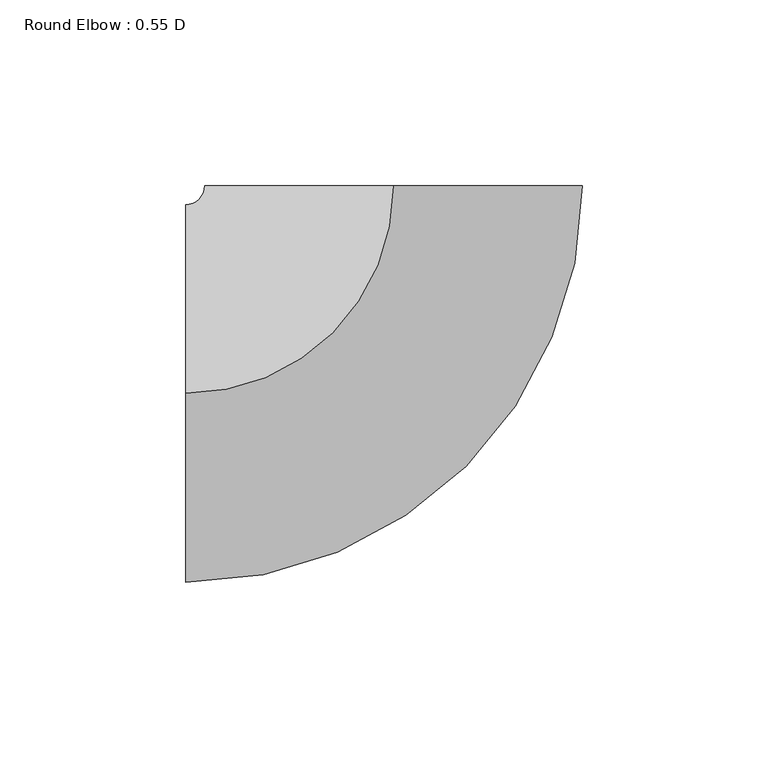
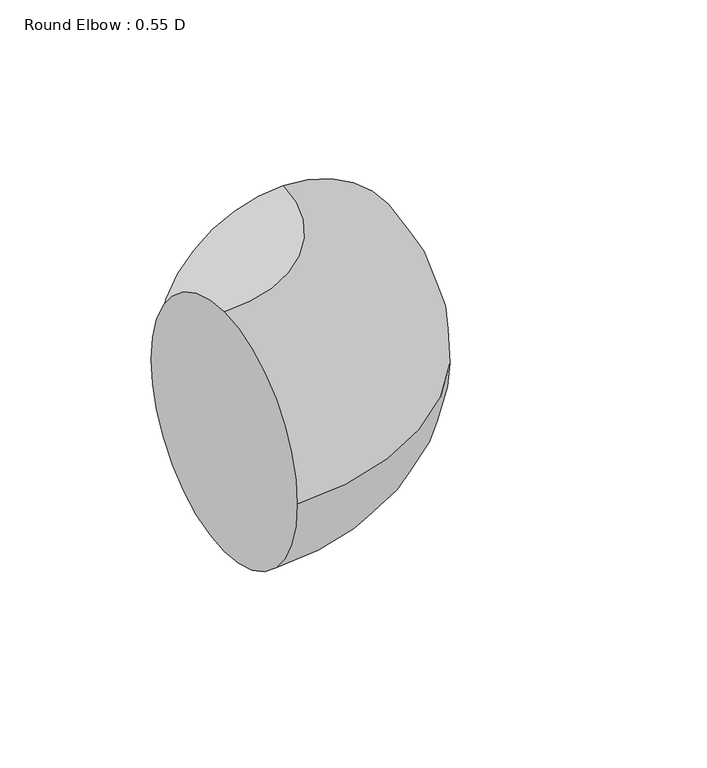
"""IFC4 building model written with IfcOpenShell, lengths in millimetres: duct fitting geometry, Round Elbow : 0.55 D."""

from ifc_helpers import new_model, si_unit, point, frame, origin, place, context, project, spatial, circle_curve, ellipse_curve, trimmed, source, transform, mapped, element, save
from ifc_brep_helpers import plane_surface, revolved_surface, advanced_brep


def round_elbow_0_55_d_35647d84(model_context):
    return source(origin(), model_context, "Body", "AdvancedBrep", [
        advanced_brep(
        [(-55.88, 0.0, 50.8), (-55.88, 50.8, 0.0), (-55.88, 0.0, -50.8), (-55.88, -50.8, 0.0), (0.0, 55.88, 50.8), (50.8, 55.88, 0.0), (0.0, 55.88, -50.8), (-50.8, 55.88, 0.0)],
        [
            (0, 1, circle_curve(frame((-55.88, 0.0, 0.0), z_axis=(-1.0, 0.0, 0.0), x_axis=(0.0, 1.0, 0.0)), 50.8)),
            (1, 2, circle_curve(frame((-55.88, 0.0, 0.0), z_axis=(-1.0, 0.0, 0.0), x_axis=(0.0, 1.0, 0.0)), 50.8)),
            (2, 3, circle_curve(frame((-55.88, 0.0, 0.0), z_axis=(-1.0, 0.0, 0.0), x_axis=(0.0, 1.0, 0.0)), 50.8)),
            (3, 0, circle_curve(frame((-55.88, 0.0, 0.0), z_axis=(-1.0, 0.0, 0.0), x_axis=(0.0, 1.0, 0.0)), 50.8)),
            (4, 5, circle_curve(frame((0.0, 55.88, 0.0), z_axis=(0.0, 1.0, 0.0), x_axis=(-1.0, 0.0, 0.0)), 50.8)),
            (5, 6, circle_curve(frame((0.0, 55.88, 0.0), z_axis=(0.0, 1.0, 0.0), x_axis=(-1.0, 0.0, 0.0)), 50.8)),
            (6, 7, circle_curve(frame((0.0, 55.88, 0.0), z_axis=(0.0, 1.0, 0.0), x_axis=(-1.0, 0.0, 0.0)), 50.8)),
            (7, 4, circle_curve(frame((0.0, 55.88, 0.0), z_axis=(0.0, 1.0, 0.0), x_axis=(-1.0, 0.0, 0.0)), 50.8)),
            (7, 1, circle_curve(frame((-55.88, 55.88, 0.0), z_axis=(0.0, 0.0, -1.0), x_axis=(0.0, -1.0, 0.0)), 5.08)),
            (0, 4, circle_curve(frame((-55.88, 55.88, 50.8), z_axis=(0.0, 0.0, 1.0), x_axis=(0.0, -1.0, 0.0)), 55.88)),
            (6, 2, circle_curve(frame((-55.88, 55.88, -50.8), z_axis=(0.0, 0.0, -1.0), x_axis=(0.0, -1.0, 0.0)), 55.88)),
            (5, 3, circle_curve(frame((-55.88, 55.88, 0.0), z_axis=(0.0, 0.0, -1.0), x_axis=(0.0, -1.0, 0.0)), 106.68)),
        ],
        [
            plane_surface(frame((-55.88, 0.0, 0.0), z_axis=(-1.0, 0.0, 0.0), x_axis=(0.0, 0.0, 1.0))),
            plane_surface(frame((0.0, 55.88, 0.0), z_axis=(0.0, 1.0, 0.0), x_axis=(0.0, 0.0, 1.0))),
            revolved_surface(trimmed(ellipse_curve(frame((-55.88, 0.0, 0.0), z_axis=(-1.0, 0.0, 0.0), x_axis=(0.0, 1.0, 0.0)), 50.8, 50.8), [point((-55.88, 0.0, 50.8))], [point((-55.88, 50.8, 0.0))], True, "CARTESIAN"), (-55.88, 55.88, 0.0), (0.0, 0.0, 1.0)),
            revolved_surface(trimmed(ellipse_curve(frame((-55.88, 0.0, 0.0), z_axis=(-1.0, 0.0, 0.0), x_axis=(0.0, 1.0, 0.0)), 50.8, 50.8), [point((-55.88, 50.8, 0.0))], [point((-55.88, 0.0, -50.8))], True, "CARTESIAN"), (-55.88, 55.88, 0.0), (0.0, 0.0, 1.0)),
            revolved_surface(trimmed(ellipse_curve(frame((-55.88, 0.0, 0.0), z_axis=(-1.0, 0.0, 0.0), x_axis=(0.0, 1.0, 0.0)), 50.8, 50.8), [point((-55.88, 0.0, -50.8))], [point((-55.88, -50.8, 0.0))], True, "CARTESIAN"), (-55.88, 55.88, 0.0), (0.0, 0.0, 1.0)),
            revolved_surface(trimmed(ellipse_curve(frame((-55.88, 0.0, 0.0), z_axis=(-1.0, 0.0, 0.0), x_axis=(0.0, 1.0, 0.0)), 50.8, 50.8), [point((-55.88, -50.8, 0.0))], [point((-55.88, 0.0, 50.8))], True, "CARTESIAN"), (-55.88, 55.88, 0.0), (0.0, 0.0, 1.0)),
        ],
        [
            (0, [[1, 2, 3, 4]]),
            (1, [[5, 6, 7, 8]]),
            (2, [[9, -1, 10, -8]]),
            (3, [[11, -2, -9, -7]]),
            (4, [[12, -3, -11, -6]]),
            (5, [[-10, -4, -12, -5]]),
        ],
    ),
    ])


if __name__ == "__main__":
    model = new_model("IFC4")
    model_context = context("Model", 3, world=origin())
    ifc_project = project(units=[si_unit("LENGTHUNIT", "METRE", prefix="MILLI")], contexts=[model_context])
    site = spatial("IfcSite", under=ifc_project)
    building = spatial("IfcBuilding", under=site)
    placement = place(None, origin())
    round_elbow_0_55_d_shape = round_elbow_0_55_d_35647d84(model_context)
    element("IfcDuctFitting", 1, ObjectType="Round Elbow : 0.55 D", at=placement, inside=building, context=model_context, shape_type="MappedRepresentation", body=[
        mapped(round_elbow_0_55_d_shape, transform((0.0, 0.0, 0.0), x_axis=(1.0, 0.0, 0.0), y_axis=(0.0, 1.0, 0.0), z_axis=(0.0, 0.0, 1.0))),
    ])
    save(model, "model.ifc")
